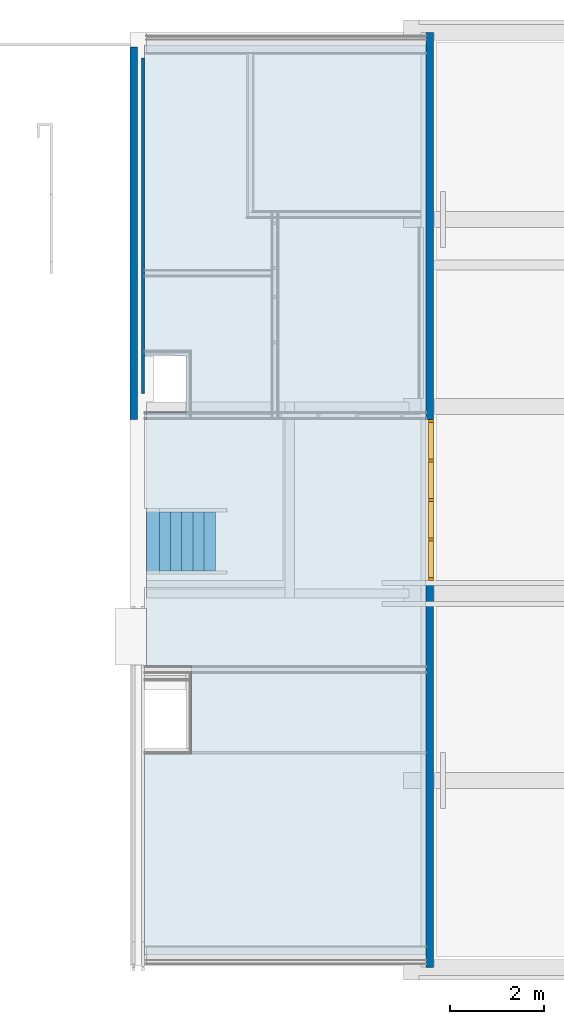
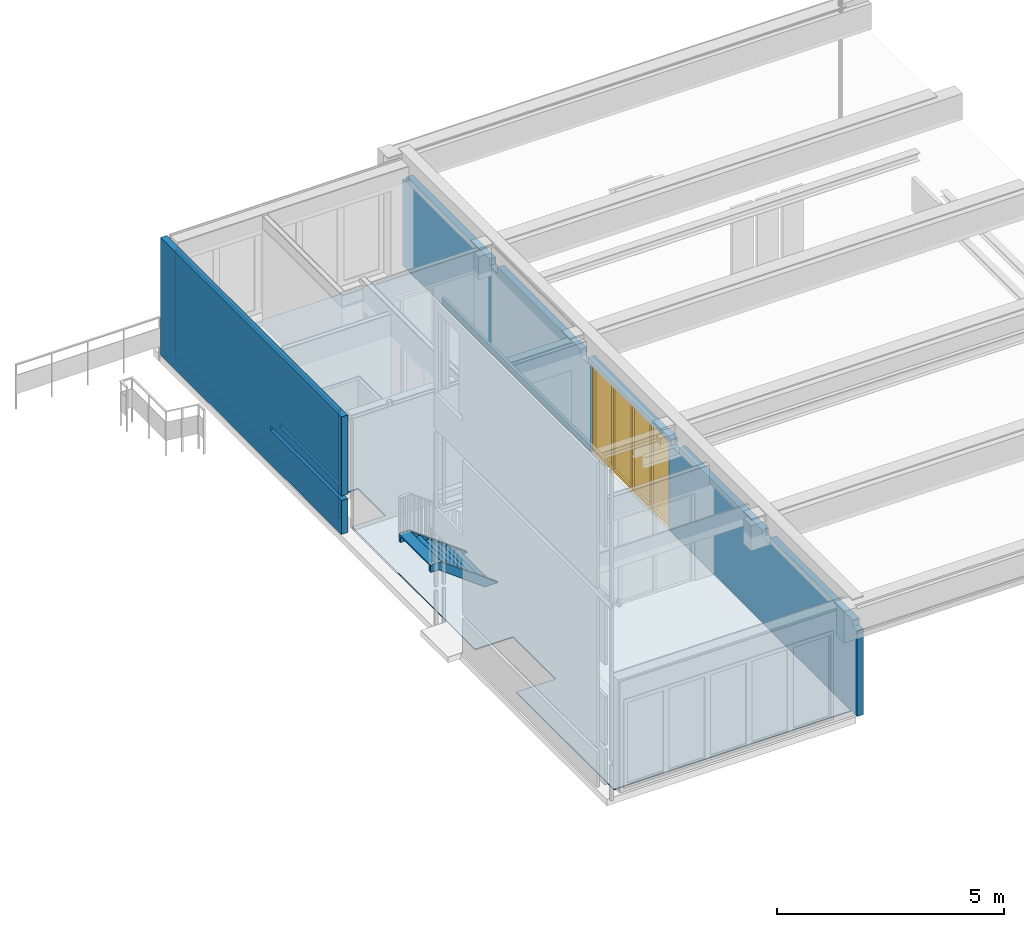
# One storey, part 3 of 13: 3 walls, 1 slab, 1 stair, 1 window, 2 openings.
"""IFC2X3 building model written with IfcOpenShell, lengths in millimetres."""

from ifc_helpers import new_model, entity, si_unit, converted_unit, derived_unit, money_unit, direction, frame, origin_with_axes, place, context, subcontext, project, spatial, open_shell, faceted_brep, surface_model, material, material_list, type_object, element, fill, save


model = new_model("IFC2X3")

# Units and contexts
model_context = context("Model", 3, precision=0.01, world=origin_with_axes(), true_north=direction((0.0, 1.0)))
body_context = subcontext(model_context, "Body", "Model", "MODEL_VIEW")
ifc_project = project(units=[si_unit("LENGTHUNIT", "METRE", prefix="MILLI"), si_unit("AREAUNIT", "SQUARE_METRE"), si_unit("VOLUMEUNIT", "CUBIC_METRE"), converted_unit("PLANEANGLEUNIT", "DEGREE", entity("IfcPlaneAngleMeasure", 0.0174532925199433), si_unit("PLANEANGLEUNIT", "RADIAN"), dimensions=[0, 0, 0, 0, 0, 0, 0]), money_unit("EUR"), converted_unit("TIMEUNIT", "Year", entity("IfcTimeMeasure", 31557600.0), si_unit("TIMEUNIT", "SECOND"), dimensions=[0, 0, 1, 0, 0, 0, 0]), si_unit("MASSUNIT", "GRAM", prefix="KILO"), si_unit("THERMODYNAMICTEMPERATUREUNIT", "DEGREE_CELSIUS"), si_unit("LUMINOUSINTENSITYUNIT", "LUMEN"), si_unit("ENERGYUNIT", "JOULE", prefix="MEGA"), derived_unit("THERMALCONDUCTANCEUNIT", [(si_unit("POWERUNIT", "WATT"), 1), (si_unit("LENGTHUNIT", "METRE"), -1), (si_unit("THERMODYNAMICTEMPERATUREUNIT", "KELVIN"), -1)]), derived_unit("SPECIFICHEATCAPACITYUNIT", [(si_unit("ENERGYUNIT", "JOULE"), 1), (si_unit("MASSUNIT", "GRAM", prefix="KILO"), -1), (si_unit("THERMODYNAMICTEMPERATUREUNIT", "KELVIN"), -1)]), derived_unit("MASSDENSITYUNIT", [(si_unit("MASSUNIT", "GRAM", prefix="KILO"), 1), (si_unit("VOLUMEUNIT", "CUBIC_METRE"), -1)])], contexts=[model_context])

# Site, building, storey
site_placement = place(None, origin_with_axes())
site = spatial("IfcSite", under=ifc_project, at=site_placement, Name="<site naam>", CompositionType="ELEMENT")
building_placement = place(site_placement, origin_with_axes())
building = spatial("IfcBuilding", under=site, at=building_placement, Name="<Naam gebouw>", CompositionType="ELEMENT")
storey_placement = place(building_placement, frame((0.0, 0.0, 3188.0), z_axis=(0.0, 0.0, 1.0), x_axis=(1.0, 0.0, 0.0)))
storey = spatial("IfcBuildingStorey", under=building, at=storey_placement, Name="01 1e tussenverdieping", CompositionType="ELEMENT", Elevation=3188.0)

# Slab, opening
ifc_material_1 = material(Name="Zwevende dekvloer")
slab_type = type_object("IfcSlabType", Name="Zwevende dekvloer 30", PredefinedType="NOTDEFINED")
slab_placement = place(storey_placement, frame((52134.99996079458, 13075.00000000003, 0.0), z_axis=(0.0, 0.0, 1.0), x_axis=(1.0, 0.0, 0.0)))
slab = element("IfcSlab", 1, at=slab_placement, inside=storey, type_object=slab_type, material=ifc_material_1, Name="23_Vloer_Zwevende", PredefinedType="NOTDEFINED", context=body_context, shape_type="Brep", body=[
    faceted_brep([(0.0, 0.0, 0.0), (0.0, 0.0, -29.9999999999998), (890.0000392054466, 0.0, -29.9999999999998), (890.0000392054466, 0.0, 0.0), (0.0, 6655.999999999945, 0.0), (0.0, 6655.999999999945, -29.9999999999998), (6022.782949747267, 6655.999999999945, -29.9999999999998), (6022.782949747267, -12806.00000000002, -29.9999999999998), (3.920545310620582e-05, -12806.00000000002, -29.9999999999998), (3.920545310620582e-05, -8502.500000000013, -29.9999999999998), (1002.500039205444, -8502.500000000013, -29.9999999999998), (1002.500039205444, -6630.000000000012, -29.9999999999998), (40.00004076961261, -6630.000000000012, -29.9999999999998), (40.00004076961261, -1199.999999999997, -29.9999999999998), (890.0000392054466, -1199.999999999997, -29.9999999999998), (890.0000392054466, -1199.999999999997, 0.0), (40.00004076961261, -1199.999999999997, 0.0), (40.00004076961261, -6630.000000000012, 0.0), (1002.500039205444, -6630.000000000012, 0.0), (1002.500039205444, -8502.500000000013, 0.0), (3.920545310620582e-05, -8502.500000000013, 0.0), (3.920545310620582e-05, -12806.00000000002, 0.0), (6022.782949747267, -12806.00000000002, 0.0), (6022.782949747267, 6655.999999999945, 0.0)], [[[0, 1, 2, 3]], [[4, 5, 1, 0]], [[2, 1, 5, 6, 7, 8, 9, 10, 11, 12, 13, 14]], [[3, 2, 14, 15]], [[4, 0, 3, 15, 16, 17, 18, 19, 20, 21, 22, 23]], [[23, 6, 5, 4]], [[22, 7, 6, 23]], [[21, 8, 7, 22]], [[20, 9, 8, 21]], [[19, 10, 9, 20]], [[18, 11, 10, 19]], [[17, 12, 11, 18]], [[16, 13, 12, 17]], [[15, 14, 13, 16]]]),
])
opening_1_placement = place(slab_placement, frame((-52134.99996079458, -13075.00000000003, -3188.0), z_axis=(0.0, 0.0, 1.0), x_axis=(1.0, 0.0, 0.0)))
element("IfcOpeningElement", 2, at=opening_1_placement, cuts=slab, Name="23_Opening_", context=body_context, shape_type="Brep", body=[
    faceted_brep([(52175.00000000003, 12104.97860832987, 3128.0), (52775.00000000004, 12104.97860832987, 3128.0), (52775.00000000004, 12104.97860832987, 3218.0), (52175.00000000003, 12104.97860832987, 3218.0), (52175.00000000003, 13105.00001099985, 3128.0), (52775.00000000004, 13105.00001099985, 3128.0), (52775.00000000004, 13105.00001099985, 3218.0), (52175.00000000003, 13105.00001099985, 3218.0)], [[[0, 1, 2, 3]], [[0, 4, 5, 1]], [[1, 5, 6, 2]], [[3, 2, 6, 7]], [[4, 0, 3, 7]], [[5, 4, 7, 6]]]),
])

# Wall
ifc_material_2 = material(Name="beton_gewapend C")
wall_type_1 = type_object("IfcWallType", Name="beton 160 160", PredefinedType="NOTDEFINED")
wall_1_placement = place(storey_placement, frame((51985.00000000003, 19685.91067811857, 0.0), z_axis=(0.0, 0.0, 1.0), x_axis=(0.0, -1.0, 0.0)))
element("IfcWall", 3, at=wall_1_placement, inside=storey, type_object=wall_type_1, material=ifc_material_2, Name="22_Binnenwand_beton", context=body_context, shape_type="Brep", body=[
    faceted_brep([(7955.511949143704, -160.0000000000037, 911.9999999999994), (7955.511949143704, -121.1294846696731, 911.9999999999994), (7960.910678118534, -121.1294846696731, 911.9999999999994), (7960.910678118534, 0.0, 911.9999999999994), (4836.410678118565, 0.0, 911.9999999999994), (4836.410678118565, -160.0000000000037, 911.9999999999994), (7955.511949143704, -121.1294846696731, 0.0), (7955.511949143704, -160.0000000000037, 0.0), (7960.910678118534, -121.1294846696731, 0.0), (7960.910678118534, 0.0, 0.0), (7960.910678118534, 0.0, 1032.0), (4836.410678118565, 0.0, 1032.0), (0.0, 0.0, 0.0), (0.0, 0.0, 3157.0), (7960.910678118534, 0.0, 3157.0), (4836.410678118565, -160.0000000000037, 1032.0), (0.0, -159.9999999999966, 0.0), (7960.910678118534, -160.0000000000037, 1032.0), (7960.910678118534, -160.0000000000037, 3157.0), (0.0, -159.9999999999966, 3157.0)], [[[0, 1, 2, 3, 4, 5]], [[6, 1, 0, 7]], [[8, 2, 1, 6]], [[3, 2, 8, 9]], [[10, 11, 4, 3, 9, 12, 13, 14]], [[15, 5, 4, 11]], [[16, 7, 0, 5, 15, 17, 18, 19]], [[8, 6, 7, 16, 12, 9]], [[17, 15, 11, 10]], [[16, 19, 13, 12]], [[14, 13, 19, 18]], [[14, 18, 17, 10]]]),
])

# Wall, opening, window
ifc_material_3 = material(Name="beton")
wall_type_2 = type_object("IfcWallType", Name="beton 160", PredefinedType="NOTDEFINED")
wall_2_placement = place(storey_placement, frame((58317.78284470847, 20000.00000000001, 0.0), z_axis=(0.0, 0.0, 1.0), x_axis=(0.0, -1.0, 0.0)))
wall_2 = element("IfcWall", 4, at=wall_2_placement, inside=storey, type_object=wall_type_2, material=ifc_material_3, Name="22_Binnenwand_beton", context=body_context, shape_type="Brep", body=[
    faceted_brep([(16175.0, 0.0, 2306.999999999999), (16175.0, -160.0000000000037, 2306.999999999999), (16175.0, -160.0000000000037, 2487.0), (16175.0, 0.0, 2487.0), (15825.0, -160.0000000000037, 2306.999999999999), (15825.0, 0.0, 2306.999999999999), (4175.000000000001, -160.0000000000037, 2306.999999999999), (3824.999999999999, -160.0000000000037, 2306.999999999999), (3824.999999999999, -160.0000000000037, 2487.0), (175.0000000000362, -160.0000000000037, 2487.0), (175.0000000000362, -160.0000000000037, 2306.999999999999), (0.0, -159.9999999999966, 2306.999999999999), (0.0, -159.9999999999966, 0.0), (20000.0, -160.0000000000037, 0.0), (20000.0, -160.0000000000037, 2306.999999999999), (19825.0, -160.0000000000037, 2306.999999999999), (19825.0, -160.0000000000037, 2487.0), (15825.0, -160.0000000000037, 2487.0), (12175.0, -160.0000000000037, 2487.0), (12175.0, -160.0000000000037, 2306.999999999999), (11825.0, -160.0000000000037, 2306.999999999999), (11825.0, -160.0000000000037, 2487.0), (8174.999999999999, -160.0000000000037, 2487.0), (8175.000000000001, -160.0000000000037, 2306.999999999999), (7824.999999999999, -160.0000000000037, 2306.999999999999), (7824.999999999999, -160.0000000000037, 2487.0), (4174.999999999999, -160.0000000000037, 2487.0), (19825.0, 0.0, 2487.0), (0.0, 0.0, 2306.999999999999), (175.0000000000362, 0.0, 2306.999999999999), (175.0000000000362, 0.0, 2487.0), (3824.999999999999, 0.0, 2487.0), (3824.999999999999, 0.0, 2306.999999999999), (4175.000000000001, 0.0, 2306.999999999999), (4174.999999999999, 0.0, 2487.0), (7824.999999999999, 0.0, 2487.0), (7824.999999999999, 0.0, 2306.999999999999), (8175.000000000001, 0.0, 2306.999999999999), (8175.000000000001, 0.0, 2487.0), (11825.0, 0.0, 2487.0), (11825.0, 0.0, 2306.999999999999), (12175.0, 0.0, 2306.999999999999), (12175.0, 0.0, 2487.0), (15825.0, 0.0, 2487.0), (19825.0, 0.0, 2306.999999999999), (20000.0, 0.0, 2306.999999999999), (20000.0, 0.0, 0.0), (0.0, 0.0, 0.0)], [[[0, 1, 2, 3]], [[4, 1, 0, 5]], [[6, 7, 8, 9, 10, 11, 12, 13, 14, 15, 16, 2, 1, 4, 17, 18, 19, 20, 21, 22, 23, 24, 25, 26]], [[2, 16, 27, 3]], [[28, 29, 30, 31, 32, 33, 34, 35, 36, 37, 38, 39, 40, 41, 42, 43, 5, 0, 3, 27, 44, 45, 46, 47]], [[4, 5, 43, 17]], [[7, 6, 33, 32]], [[7, 32, 31, 8]], [[9, 8, 31, 30]], [[29, 10, 9, 30]], [[11, 10, 29, 28]], [[47, 12, 11, 28]], [[13, 12, 47, 46]], [[13, 46, 45, 14]], [[15, 14, 45, 44]], [[15, 44, 27, 16]], [[18, 17, 43, 42]], [[41, 19, 18, 42]], [[20, 19, 41, 40]], [[20, 40, 39, 21]], [[22, 21, 39, 38]], [[37, 23, 22, 38]], [[24, 23, 37, 36]], [[24, 36, 35, 25]], [[25, 35, 34, 26]], [[33, 6, 26, 34]]]),
])
opening_2_placement = place(wall_2_placement, frame((9999.999999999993, 0.0, 0.0), z_axis=(0.0, 0.0, 1.0), x_axis=(1.0, 0.0, 0.0)))
opening_2 = element("IfcOpeningElement", 5, at=opening_2_placement, cuts=wall_2, Name="22_BI-E-14_305", context=body_context, shape_type="Brep", body=[
    faceted_brep([(-1725.0, -160.9999999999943, 2367.0), (-1725.0, -160.9999999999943, 0.0), (1725.0, -161.0000000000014, 0.0), (1725.0, -161.0000000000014, 2367.0), (-1725.0, 0.9999999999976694, 2367.0), (-1725.0, 0.9999999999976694, 0.0), (1725.0, 0.999999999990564, 0.0), (1725.0, 0.999999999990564, 2367.0)], [[[0, 1, 2, 3]], [[4, 5, 1, 0]], [[5, 6, 2, 1]], [[6, 7, 3, 2]], [[7, 4, 0, 3]], [[6, 5, 4, 7]]]),
])
window_style = type_object("IfcWindowStyle", Name="Rnx horizontaal 27", ConstructionType="NOTDEFINED", OperationType="USERDEFINED", ParameterTakesPrecedence=False, Sizeable=False)
window_placement = place(opening_2_placement, frame((-1725.0, 0.0, 0.0), z_axis=(0.0, 0.0, 1.0), x_axis=(1.0, 0.0, 0.0)))
window = element("IfcWindow", 6, at=window_placement, inside=storey, type_object=window_style, Name="22_BI-E-14_305", ObjectType="WINDOW", OverallHeight=2367.0, OverallWidth=3450.0, context=body_context, shape_type="SurfaceModel", body=[
    faceted_brep([(67.00000000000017, -113.9999999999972, 2300.0), (67.00000000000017, 0.0, 2300.0), (0.0, 0.0, 2300.0), (0.0, -113.9999999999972, 2300.0), (67.00000000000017, -113.9999999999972, 67.00000000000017), (67.00000000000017, 0.0, 67.00000000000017), (0.0, 0.0, 67.00000000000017), (0.0, -113.9999999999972, 67.00000000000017)], [[[0, 1, 2, 3]], [[4, 5, 1, 0]], [[1, 5, 6, 2]], [[3, 2, 6, 7]], [[0, 3, 7, 4]], [[7, 6, 5, 4]]]),
    faceted_brep([(3382.999999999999, -113.9999999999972, 67.00000000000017), (3382.999999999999, 0.0, 67.00000000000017), (3449.999999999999, 0.0, 67.00000000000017), (3449.999999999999, -113.9999999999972, 67.00000000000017), (3382.999999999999, -113.9999999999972, 2300.0), (3382.999999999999, 0.0, 2300.0), (3449.999999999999, 0.0, 2300.0), (3449.999999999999, -113.9999999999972, 2300.0)], [[[0, 1, 2, 3]], [[4, 5, 1, 0]], [[1, 5, 6, 2]], [[3, 2, 6, 7]], [[0, 3, 7, 4]], [[7, 6, 5, 4]]]),
    faceted_brep([(3382.999999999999, -113.9999999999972, 2300.0), (3382.999999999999, 0.0, 2300.0), (3449.999999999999, 0.0, 2300.0), (3449.999999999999, -113.9999999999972, 2300.0), (2604.249999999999, -113.9999999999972, 2300.0), (2604.249999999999, 0.0, 2300.0), (2537.249999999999, 0.0, 2300.0), (1758.5, 0.0, 2300.0), (1691.5, 0.0, 2300.0), (912.7499999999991, 0.0, 2300.0), (845.7499999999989, 0.0, 2300.0), (67.00000000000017, 0.0, 2300.0), (0.0, 0.0, 2300.0), (0.0, 0.0, 2367.0), (3449.999999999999, 0.0, 2367.0), (3449.999999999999, -113.9999999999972, 2367.0), (0.0, -113.9999999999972, 2367.0), (0.0, -113.9999999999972, 2300.0), (67.00000000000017, -113.9999999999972, 2300.0), (845.7499999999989, -113.9999999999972, 2300.0), (912.7499999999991, -113.9999999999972, 2300.0), (1691.5, -113.9999999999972, 2300.0), (1758.5, -113.9999999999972, 2300.0), (2537.249999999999, -113.9999999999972, 2300.0)], [[[0, 1, 2, 3]], [[4, 5, 1, 0]], [[1, 5, 6, 7, 8, 9, 10, 11, 12, 13, 14, 2]], [[3, 2, 14, 15]], [[0, 3, 15, 16, 17, 18, 19, 20, 21, 22, 23, 4]], [[23, 6, 5, 4]], [[22, 7, 6, 23]], [[21, 8, 7, 22]], [[20, 9, 8, 21]], [[19, 10, 9, 20]], [[18, 11, 10, 19]], [[17, 12, 11, 18]], [[16, 13, 12, 17]], [[15, 14, 13, 16]]]),
    faceted_brep([(2604.249999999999, -113.9999999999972, 67.00000000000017), (2604.249999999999, 0.0, 67.00000000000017), (2537.249999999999, 0.0, 67.00000000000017), (2537.249999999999, -113.9999999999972, 67.00000000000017), (3382.999999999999, -113.9999999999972, 67.00000000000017), (3382.999999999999, 0.0, 67.00000000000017), (3449.999999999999, 0.0, 67.00000000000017), (3449.999999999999, 0.0, 0.0), (0.0, 0.0, 0.0), (0.0, 0.0, 67.00000000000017), (67.00000000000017, 0.0, 67.00000000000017), (845.7499999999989, 0.0, 67.00000000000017), (912.7499999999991, 0.0, 67.00000000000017), (1691.5, 0.0, 67.00000000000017), (1758.5, 0.0, 67.00000000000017), (1758.5, -113.9999999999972, 67.00000000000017), (1691.5, -113.9999999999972, 67.00000000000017), (912.7499999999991, -113.9999999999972, 67.00000000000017), (845.7499999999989, -113.9999999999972, 67.00000000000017), (67.00000000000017, -113.9999999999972, 67.00000000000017), (0.0, -113.9999999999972, 67.00000000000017), (0.0, -113.9999999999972, 0.0), (3449.999999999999, -113.9999999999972, 0.0), (3449.999999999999, -113.9999999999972, 67.00000000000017)], [[[0, 1, 2, 3]], [[4, 5, 1, 0]], [[1, 5, 6, 7, 8, 9, 10, 11, 12, 13, 14, 2]], [[3, 2, 14, 15]], [[0, 3, 15, 16, 17, 18, 19, 20, 21, 22, 23, 4]], [[23, 6, 5, 4]], [[22, 7, 6, 23]], [[21, 8, 7, 22]], [[20, 9, 8, 21]], [[19, 10, 9, 20]], [[18, 11, 10, 19]], [[17, 12, 11, 18]], [[16, 13, 12, 17]], [[15, 14, 13, 16]]]),
    faceted_brep([(912.7499999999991, -113.9999999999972, 67.00000000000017), (912.7499999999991, 0.0, 67.00000000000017), (912.7499999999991, 0.0, 2300.0), (912.7499999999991, -113.9999999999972, 2300.0), (845.7499999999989, -113.9999999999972, 67.00000000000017), (845.7499999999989, 0.0, 67.00000000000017), (845.7499999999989, 0.0, 2300.0), (845.7499999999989, -113.9999999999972, 2300.0)], [[[0, 1, 2, 3]], [[4, 5, 1, 0]], [[1, 5, 6, 2]], [[3, 2, 6, 7]], [[0, 3, 7, 4]], [[7, 6, 5, 4]]]),
    faceted_brep([(1758.5, -113.9999999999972, 67.00000000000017), (1758.5, 0.0, 67.00000000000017), (1758.5, 0.0, 2300.0), (1758.5, -113.9999999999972, 2300.0), (1691.5, -113.9999999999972, 67.00000000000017), (1691.5, 0.0, 67.00000000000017), (1691.5, 0.0, 2300.0), (1691.5, -113.9999999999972, 2300.0)], [[[0, 1, 2, 3]], [[4, 5, 1, 0]], [[1, 5, 6, 2]], [[3, 2, 6, 7]], [[0, 3, 7, 4]], [[7, 6, 5, 4]]]),
    faceted_brep([(2604.249999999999, -113.9999999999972, 67.00000000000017), (2604.249999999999, 0.0, 67.00000000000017), (2604.249999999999, 0.0, 2300.0), (2604.249999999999, -113.9999999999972, 2300.0), (2537.249999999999, -113.9999999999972, 67.00000000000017), (2537.249999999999, 0.0, 67.00000000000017), (2537.249999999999, 0.0, 2300.0), (2537.249999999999, -113.9999999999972, 2300.0)], [[[0, 1, 2, 3]], [[4, 5, 1, 0]], [[1, 5, 6, 2]], [[3, 2, 6, 7]], [[0, 3, 7, 4]], [[7, 6, 5, 4]]]),
    surface_model("IfcShellBasedSurfaceModel", [(67.00000000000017, -64.00000000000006, 67.00000000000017), (845.7499999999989, -64.00000000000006, 67.00000000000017), (845.7499999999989, -64.00000000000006, 2300.0), (67.00000000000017, -64.00000000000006, 2300.0)], [open_shell([[[0, 1, 2, 3]]])]),
    surface_model("IfcShellBasedSurfaceModel", [(67.00000000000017, -43.99999999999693, 67.00000000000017), (67.00000000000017, -43.99999999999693, 2300.0), (845.7499999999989, -43.99999999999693, 2300.0), (845.7499999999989, -43.99999999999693, 67.00000000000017)], [open_shell([[[0, 1, 2, 3]]])]),
    surface_model("IfcShellBasedSurfaceModel", [(912.7499999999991, -64.00000000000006, 67.00000000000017), (1691.5, -64.00000000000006, 67.00000000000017), (1691.5, -64.00000000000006, 2300.0), (912.7499999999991, -64.00000000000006, 2300.0)], [open_shell([[[0, 1, 2, 3]]])]),
    surface_model("IfcShellBasedSurfaceModel", [(912.7499999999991, -43.99999999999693, 67.00000000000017), (912.7499999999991, -43.99999999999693, 2300.0), (1691.5, -43.99999999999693, 2300.0), (1691.5, -43.99999999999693, 67.00000000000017)], [open_shell([[[0, 1, 2, 3]]])]),
    surface_model("IfcShellBasedSurfaceModel", [(1758.5, -64.00000000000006, 67.00000000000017), (2537.249999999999, -64.00000000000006, 67.00000000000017), (2537.249999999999, -64.00000000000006, 2300.0), (1758.5, -64.00000000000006, 2300.0)], [open_shell([[[0, 1, 2, 3]]])]),
    surface_model("IfcShellBasedSurfaceModel", [(1758.5, -43.99999999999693, 67.00000000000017), (1758.5, -43.99999999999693, 2300.0), (2537.249999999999, -43.99999999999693, 2300.0), (2537.249999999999, -43.99999999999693, 67.00000000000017)], [open_shell([[[0, 1, 2, 3]]])]),
    surface_model("IfcShellBasedSurfaceModel", [(2604.249999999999, -64.00000000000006, 67.00000000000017), (3382.999999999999, -64.00000000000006, 67.00000000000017), (3382.999999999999, -64.00000000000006, 2300.0), (2604.249999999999, -64.00000000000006, 2300.0)], [open_shell([[[0, 1, 2, 3]]])]),
    surface_model("IfcShellBasedSurfaceModel", [(2604.249999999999, -43.99999999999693, 67.00000000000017), (2604.249999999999, -43.99999999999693, 2300.0), (3382.999999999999, -43.99999999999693, 2300.0), (3382.999999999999, -43.99999999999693, 67.00000000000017)], [open_shell([[[0, 1, 2, 3]]])]),
])
fill(opening_2, window)

# Wall
ifc_material_4 = material(Name="metal_stud")
wall_type_3 = type_object("IfcWallType", Name="metalstud 70 70", PredefinedType="NOTDEFINED")
wall_3_placement = place(storey_placement, frame((52135.00000000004, 11725.00000000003, 0.0), z_axis=(0.0, 0.0, 1.0), x_axis=(0.0, 1.0, 0.0)))
element("IfcWall", 7, at=wall_3_placement, inside=storey, type_object=wall_type_3, material=ifc_material_4, Name="22_Binnenwand_metalstud", context=body_context, shape_type="Brep", body=[
    faceted_brep([(3124.499999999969, 0.0, 911.9999999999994), (3124.499999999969, 70.00000000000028, 911.9999999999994), (549.9999999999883, 70.00000000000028, 911.9999999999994), (549.9999999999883, 0.0, 911.9999999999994), (3124.499999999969, 0.0, 1032.0), (3124.499999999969, 70.00000000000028, 1032.0), (549.9999999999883, 70.00000000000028, 1032.0), (549.9999999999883, 70.00000000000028, 2926.999999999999), (7724.999999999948, 70.00000000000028, 2926.999999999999), (7724.999999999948, 70.00000000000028, 0.0), (549.9999999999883, 70.00000000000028, 0.0), (549.9999999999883, 0.0, 0.0), (7724.999999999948, 0.0, 2926.999999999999), (549.9999999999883, 0.0, 2926.999999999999), (549.9999999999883, 0.0, 1032.0), (7724.999999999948, 0.0, 0.0)], [[[0, 1, 2, 3]], [[0, 4, 5, 1]], [[1, 5, 6, 7, 8, 9, 10, 2]], [[2, 10, 11, 3]], [[12, 13, 14, 4, 0, 3, 11, 15]], [[5, 4, 14, 6]], [[14, 13, 7, 6]], [[12, 8, 7, 13]], [[15, 9, 8, 12]], [[9, 15, 11, 10]]]),
])

# Stair
ifc_material_5 = material(Name="staal")
ifc_material_list = material_list([ifc_material_5, ifc_material_5, ifc_material_5, ifc_material_5, ifc_material_5, ifc_material_5, ifc_material_5, ifc_material_5])
stair_placement = place(storey_placement, frame((53649.37460543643, 9745.000000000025, 0.0), z_axis=(0.0, 0.0, 1.0), x_axis=(1.0, 0.0, 0.0)))
element("IfcStair", 8, at=stair_placement, inside=storey, material=ifc_material_list, Name="24_Trap_", ShapeType="NOTDEFINED", context=body_context, shape_type="Brep", body=[
    faceted_brep([(240.000000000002, -1330.0, 0.0), (240.000000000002, -1260.0, 0.0), (0.0, -1260.000000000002, 177.0000000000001), (-240.000000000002, -1260.000000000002, 354.0000000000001), (-479.9999999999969, -1260.000000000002, 531.0000000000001), (-719.9999999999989, -1260.000000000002, 707.9999999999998), (-960.0000000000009, -1260.000000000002, 885.0000000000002), (-1199.999999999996, -1260.000000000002, 1062.0), (-1199.999999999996, -1330.000000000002, 1062.0), (-960.0000000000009, -1330.000000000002, 885.0000000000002), (-719.9999999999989, -1330.000000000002, 707.9999999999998), (-479.9999999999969, -1330.000000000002, 531.0000000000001), (-240.000000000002, -1330.000000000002, 354.0000000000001), (0.0, -1330.0, 177.0000000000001), (-96.96006530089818, -1330.0, 0.0), (-96.96006530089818, -1260.000000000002, 0.0), (-118.7084290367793, -1260.000000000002, 16.03941825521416), (-358.7084290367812, -1260.000000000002, 193.0394182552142), (-598.7084290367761, -1260.000000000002, 370.0394182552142), (-838.7084290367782, -1260.000000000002, 547.0394182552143), (-1078.70842903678, -1260.000000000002, 724.0394182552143), (-1265.773624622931, -1260.000000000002, 861.9999999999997), (-1469.999999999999, -1260.000000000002, 861.9999999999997), (-1469.999999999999, -1260.000000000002, 1062.0), (-1469.999999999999, -1330.000000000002, 1062.0), (-118.7084290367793, -1330.0, 16.03941825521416), (-1469.999999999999, -1330.000000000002, 861.9999999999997), (-1265.773624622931, -1330.000000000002, 861.9999999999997), (-1078.70842903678, -1330.000000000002, 724.0394182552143), (-838.7084290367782, -1330.000000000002, 547.0394182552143), (-598.7084290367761, -1330.000000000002, 370.0394182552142), (-358.7084290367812, -1330.000000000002, 193.0394182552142)], [[[0, 1, 2, 3, 4, 5, 6, 7, 8, 9, 10, 11, 12, 13]], [[1, 0, 14, 15]], [[2, 1, 15, 16, 17, 18, 19, 20, 21, 22, 23, 7, 6, 5, 4, 3]], [[8, 7, 23, 24]], [[25, 14, 0, 13, 12, 11, 10, 9, 8, 24, 26, 27, 28, 29, 30, 31]], [[14, 25, 31, 30, 29, 28, 27, 21, 20, 19, 18, 17, 16, 15]], [[21, 27, 26, 22]], [[22, 26, 24, 23]]]),
    faceted_brep([(240.000000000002, 0.0, 0.0), (240.000000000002, 70.00000000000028, 0.0), (0.0, 69.99999999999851, 177.0000000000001), (-240.000000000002, 69.99999999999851, 354.0000000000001), (-480.000000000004, 69.99999999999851, 531.0000000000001), (-719.9999999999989, 69.99999999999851, 707.9999999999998), (-960.0000000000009, 69.99999999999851, 885.0000000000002), (-1200.000000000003, 69.99999999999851, 1062.0), (-1200.000000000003, 0.0, 1062.0), (-960.0000000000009, 0.0, 885.0000000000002), (-719.9999999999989, 0.0, 707.9999999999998), (-480.000000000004, 0.0, 531.0000000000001), (-240.000000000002, 0.0, 354.0000000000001), (0.0, 0.0, 177.0000000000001), (-96.96006530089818, 0.0, 0.0), (-96.96006530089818, 69.99999999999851, 0.0), (-118.7084290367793, 69.99999999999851, 16.03941825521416), (-358.7084290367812, 69.99999999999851, 193.0394182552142), (-598.7084290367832, 69.99999999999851, 370.0394182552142), (-838.7084290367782, 69.99999999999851, 547.0394182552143), (-1078.70842903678, 69.99999999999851, 724.0394182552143), (-1265.773624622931, 69.99999999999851, 861.9999999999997), (-1469.999999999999, 69.99999999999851, 861.9999999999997), (-1469.999999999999, 69.99999999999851, 1062.0), (-1469.999999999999, 0.0, 1062.0), (-118.7084290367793, 0.0, 16.03941825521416), (-1469.999999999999, 0.0, 861.9999999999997), (-1265.773624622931, 0.0, 861.9999999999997), (-1078.70842903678, 0.0, 724.0394182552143), (-838.7084290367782, 0.0, 547.0394182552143), (-598.7084290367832, 0.0, 370.0394182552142), (-358.7084290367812, 0.0, 193.0394182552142)], [[[0, 1, 2, 3, 4, 5, 6, 7, 8, 9, 10, 11, 12, 13]], [[1, 0, 14, 15]], [[2, 1, 15, 16, 17, 18, 19, 20, 21, 22, 23, 7, 6, 5, 4, 3]], [[8, 7, 23, 24]], [[25, 14, 0, 13, 12, 11, 10, 9, 8, 24, 26, 27, 28, 29, 30, 31]], [[14, 25, 31, 30, 29, 28, 27, 21, 20, 19, 18, 17, 16, 15]], [[21, 27, 26, 22]], [[22, 26, 24, 23]]]),
    faceted_brep([(0.0, -1260.000000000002, 139.0000000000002), (0.0, 0.0, 139.0000000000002), (0.0, 0.0, 177.0000000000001), (0.0, -1260.000000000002, 177.0000000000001), (-270.0000000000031, -1260.000000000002, 139.0000000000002), (-270.0000000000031, 0.0, 139.0000000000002), (-270.0000000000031, 0.0, 177.0000000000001), (-270.0000000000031, -1260.000000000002, 177.0000000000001)], [[[0, 1, 2, 3]], [[0, 4, 5, 1]], [[1, 5, 6, 2]], [[3, 2, 6, 7]], [[4, 0, 3, 7]], [[5, 4, 7, 6]]]),
    faceted_brep([(-240.000000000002, -1260.000000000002, 316.0000000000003), (-240.000000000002, 0.0, 316.0000000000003), (-240.000000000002, 0.0, 354.0000000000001), (-240.000000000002, -1260.000000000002, 354.0000000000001), (-510.0000000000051, -1260.000000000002, 316.0000000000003), (-510.0000000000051, 0.0, 316.0000000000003), (-510.0000000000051, 0.0, 354.0000000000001), (-510.0000000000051, -1260.000000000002, 354.0000000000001)], [[[0, 1, 2, 3]], [[0, 4, 5, 1]], [[1, 5, 6, 2]], [[3, 2, 6, 7]], [[4, 0, 3, 7]], [[5, 4, 7, 6]]]),
    faceted_brep([(-479.9999999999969, -1260.000000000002, 493.0000000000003), (-479.9999999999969, 0.0, 493.0000000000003), (-479.9999999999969, 0.0, 531.0000000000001), (-479.9999999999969, -1260.000000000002, 531.0000000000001), (-750.0, -1260.000000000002, 493.0000000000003), (-750.0, 0.0, 493.0000000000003), (-750.0, 0.0, 531.0000000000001), (-750.0, -1260.000000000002, 531.0000000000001)], [[[0, 1, 2, 3]], [[0, 4, 5, 1]], [[1, 5, 6, 2]], [[3, 2, 6, 7]], [[4, 0, 3, 7]], [[5, 4, 7, 6]]]),
    faceted_brep([(-719.9999999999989, -1260.000000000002, 669.9999999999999), (-719.9999999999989, 0.0, 669.9999999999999), (-719.9999999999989, 0.0, 707.9999999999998), (-719.9999999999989, -1260.000000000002, 707.9999999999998), (-990.000000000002, -1260.000000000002, 669.9999999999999), (-990.000000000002, 0.0, 669.9999999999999), (-990.000000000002, 0.0, 707.9999999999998), (-990.000000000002, -1260.000000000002, 707.9999999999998)], [[[0, 1, 2, 3]], [[0, 4, 5, 1]], [[1, 5, 6, 2]], [[3, 2, 6, 7]], [[4, 0, 3, 7]], [[5, 4, 7, 6]]]),
    faceted_brep([(-960.0000000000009, -1260.000000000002, 847.0), (-960.0000000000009, 0.0, 847.0), (-960.0000000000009, 0.0, 885.0000000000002), (-960.0000000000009, -1260.000000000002, 885.0000000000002), (-1230.000000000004, -1260.000000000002, 847.0), (-1230.000000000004, 0.0, 847.0), (-1230.000000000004, 0.0, 885.0000000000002), (-1230.000000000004, -1260.000000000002, 885.0000000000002)], [[[0, 1, 2, 3]], [[0, 4, 5, 1]], [[1, 5, 6, 2]], [[3, 2, 6, 7]], [[4, 0, 3, 7]], [[5, 4, 7, 6]]]),
    faceted_brep([(-1199.999999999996, -1330.0, 1024.0), (-1199.999999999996, 69.99999999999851, 1024.0), (-1199.999999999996, 69.99999999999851, 1062.0), (-1199.999999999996, -1330.0, 1062.0), (-1469.999999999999, -1330.000000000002, 1024.0), (-1469.999999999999, 69.99999999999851, 1024.0), (-1469.999999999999, 69.99999999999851, 1062.0), (-1469.999999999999, -1330.000000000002, 1062.0)], [[[0, 1, 2, 3]], [[0, 4, 5, 1]], [[1, 5, 6, 2]], [[3, 2, 6, 7]], [[4, 0, 3, 7]], [[5, 4, 7, 6]]]),
])

save(model, "model.ifc")
